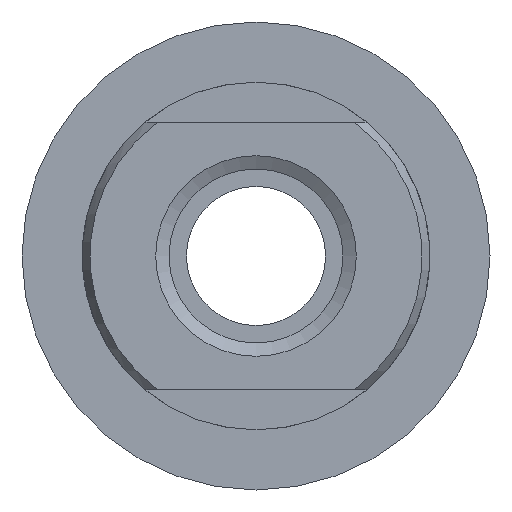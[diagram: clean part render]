
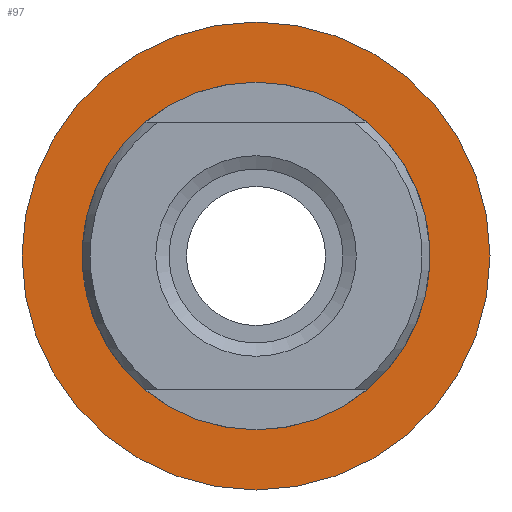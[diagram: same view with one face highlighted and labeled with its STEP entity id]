
A CAD part, left-side view. The second image highlights one B-rep face of the part: STEP entity #97.
In plain terms, the highlighted planar face has unit normal (-1, 0, 0).
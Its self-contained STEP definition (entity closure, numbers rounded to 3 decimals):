
#97=ADVANCED_FACE('',(#179,#180),#181,.F.);
#179=FACE_OUTER_BOUND('',#298,.T.);
#180=FACE_BOUND('',#299,.T.);
#181=PLANE('',#300);
#298=EDGE_LOOP('',(#486));
#299=EDGE_LOOP('',(#487));
#300=AXIS2_PLACEMENT_3D('',#488,#489,#490);
#486=ORIENTED_EDGE('',*,*,#660,.F.);
#487=ORIENTED_EDGE('',*,*,#661,.T.);
#488=CARTESIAN_POINT('',(23.25,19.5,0.0));
#489=DIRECTION('',(1.0,0.0,0.0));
#490=DIRECTION('',(0.0,0.0,-1.0));
#660=EDGE_CURVE('',#767,#767,#768,.T.);
#661=EDGE_CURVE('',#769,#769,#770,.T.);
#767=VERTEX_POINT('',#915);
#768=CIRCLE('',#916,26.25);
#769=VERTEX_POINT('',#917);
#770=CIRCLE('',#918,19.5);
#915=CARTESIAN_POINT('',(23.25,0.0,-26.25));
#916=AXIS2_PLACEMENT_3D('',#1039,#1040,#1041);
#917=CARTESIAN_POINT('',(23.25,0.0,-19.5));
#918=AXIS2_PLACEMENT_3D('',#1042,#1043,#1044);
#1039=CARTESIAN_POINT('',(23.25,0.0,0.0));
#1040=DIRECTION('',(1.0,0.0,0.0));
#1041=DIRECTION('',(0.0,0.0,-1.0));
#1042=CARTESIAN_POINT('',(23.25,0.0,0.0));
#1043=DIRECTION('',(1.0,0.0,0.0));
#1044=DIRECTION('',(0.0,0.0,-1.0));
